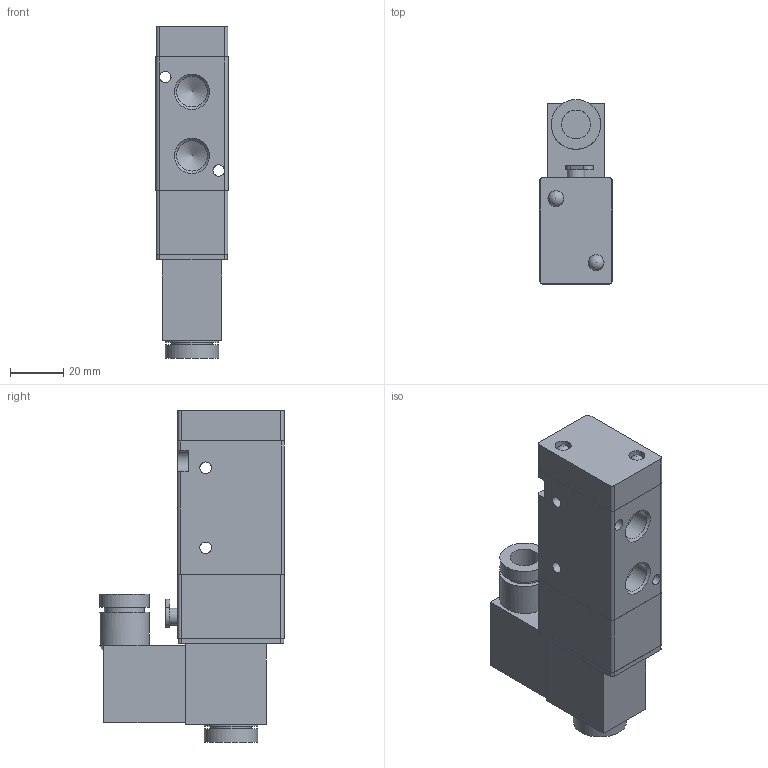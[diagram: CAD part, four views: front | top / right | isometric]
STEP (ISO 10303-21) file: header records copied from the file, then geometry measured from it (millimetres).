
FILE_DESCRIPTION( ( 'STEP AP214' ), '1' );
FILE_NAME( 'C:/Users/emc02044/Desktop/RV三通/RV3231-08QE10.stp', '2026-07-30T12:16:34', ( 'License CC BY-ND 4.0' ), ( 'CADENAS' ), ' ', 'PARTsolutions', ' ' );
FILE_SCHEMA( ( 'AUTOMOTIVE_DESIGN { 1 0 10303 214 1 1 1 1 }' ) );
Length unit declared in the file: millimetre
Products named in the file (2): RV3231-08QE10; _RV3231-08QE10-body
Assembly tree (1 placements, depth 2):
  RV3231-08QE10
    _RV3231-08QE10-body
Bounding box: 27 x 69.2 x 124.3 mm (x, y, z)
Volume: 133182.4 mm3; surface area: 25378.3 mm2
Topology: 1 solids, 1 shells, 96 faces, 244 edges, 162 vertices
Faces by surface type: plane 48, cylinder 39, cone 7, sphere 2
Full cylindrical faces by diameter (mm): 4.3 x4, 6 x2, 6.5 x1, 10.8 x1, 11.445 x3, 15 x2, 18.6 x2, 20 x2
Entity records: 3653 total; most frequent: CARTESIAN_POINT 606, DIRECTION 479, ORIENTED_EDGE 408, EDGE_CURVE 204, AXIS2_PLACEMENT_3D 180, VERTEX_POINT 153, EDGE_LOOP 146, LINE 119
